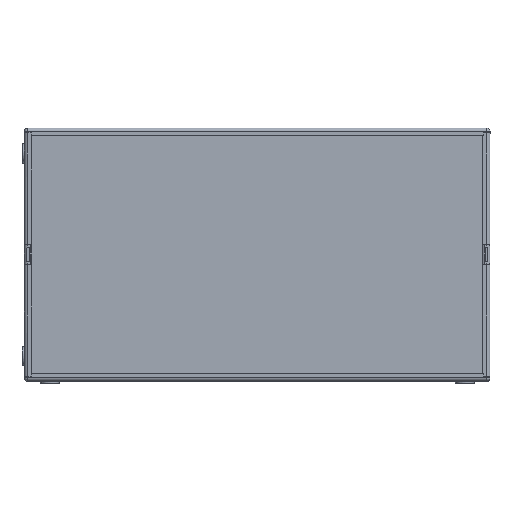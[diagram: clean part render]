
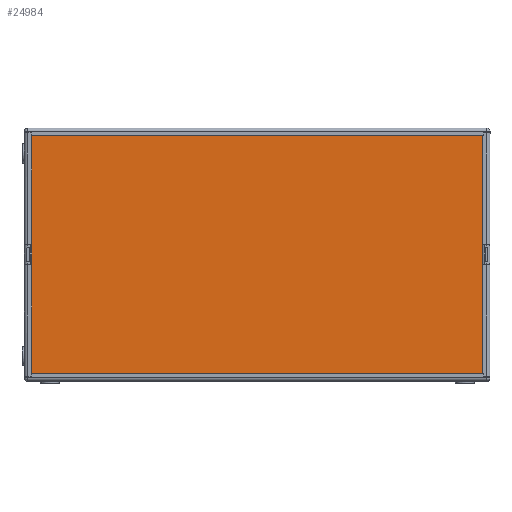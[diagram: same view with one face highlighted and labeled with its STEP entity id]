
A CAD part, top view. The second image highlights one B-rep face of the part: STEP entity #24984.
In plain terms, the highlighted planar face has unit normal (0, 0, 1).
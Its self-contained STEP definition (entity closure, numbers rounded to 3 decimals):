
#608 = EDGE_CURVE ( 'NONE', #23663, #23677, #9696, .T. ) ;
#609 = EDGE_CURVE ( 'NONE', #23663, #23666, #9699, .T. ) ;
#610 = EDGE_CURVE ( 'NONE', #23666, #23662, #9701, .T. ) ;
#611 = EDGE_CURVE ( 'NONE', #23677, #23662, #9703, .T. ) ;
#2305 = ORIENTED_EDGE ( 'NONE', *, *, #608, .F. ) ;
#2306 = ORIENTED_EDGE ( 'NONE', *, *, #609, .T. ) ;
#2307 = ORIENTED_EDGE ( 'NONE', *, *, #610, .T. ) ;
#2308 = ORIENTED_EDGE ( 'NONE', *, *, #611, .F. ) ;
#8741 = CARTESIAN_POINT ( 'NONE',  ( 454.405, 245.79, -6.5 ) ) ;
#8742 = DIRECTION ( 'NONE',  ( 0., -1., 0. ) ) ;
#8743 = CARTESIAN_POINT ( 'NONE',  ( 936.509, 245.79, -6.5 ) ) ;
#8744 = DIRECTION ( 'NONE',  ( -1., 0., 0. ) ) ;
#8745 = CARTESIAN_POINT ( 'NONE',  ( -457.595, 245.79, -6.5 ) ) ;
#8746 = DIRECTION ( 'NONE',  ( 0., -1., 0. ) ) ;
#8747 = CARTESIAN_POINT ( 'NONE',  ( 936.509, -236.21, -6.5 ) ) ;
#8748 = DIRECTION ( 'NONE',  ( -1., 0., 0. ) ) ;
#9696 = LINE ( 'NONE', #8741, #9698 ) ;
#9698 = VECTOR ( 'NONE', #8742, 1000. ) ;
#9699 = LINE ( 'NONE', #8743, #9700 ) ;
#9700 = VECTOR ( 'NONE', #8744, 1000. ) ;
#9701 = LINE ( 'NONE', #8745, #9702 ) ;
#9702 = VECTOR ( 'NONE', #8746, 1000. ) ;
#9703 = LINE ( 'NONE', #8747, #9704 ) ;
#9704 = VECTOR ( 'NONE', #8748, 1000. ) ;
#14690 = CARTESIAN_POINT ( 'NONE',  ( -457.595, -236.21, -6.5 ) ) ;
#14691 = CARTESIAN_POINT ( 'NONE',  ( 454.405, 245.79, -6.5 ) ) ;
#14694 = CARTESIAN_POINT ( 'NONE',  ( -457.595, 245.79, -6.5 ) ) ;
#14705 = CARTESIAN_POINT ( 'NONE',  ( 454.405, -236.21, -6.5 ) ) ;
#16049 = AXIS2_PLACEMENT_3D ( 'NONE', #19814, #19815, #19816 ) ;
#18605 = FACE_OUTER_BOUND ( 'NONE', #22567, .T. ) ;
#19813 = PLANE ( 'NONE',  #16049 ) ;
#19814 = CARTESIAN_POINT ( 'NONE',  ( 936.509, 245.79, -6.5 ) ) ;
#19815 = DIRECTION ( 'NONE',  ( 0., 0., -1. ) ) ;
#19816 = DIRECTION ( 'NONE',  ( -1., 0., 0. ) ) ;
#22567 = EDGE_LOOP ( 'NONE', ( #2305, #2306, #2307, #2308 ) ) ;
#23662 = VERTEX_POINT ( 'NONE', #14690 ) ;
#23663 = VERTEX_POINT ( 'NONE', #14691 ) ;
#23666 = VERTEX_POINT ( 'NONE', #14694 ) ;
#23677 = VERTEX_POINT ( 'NONE', #14705 ) ;
#24984 = ADVANCED_FACE ( 'NONE', ( #18605 ), #19813, .F. ) ;
